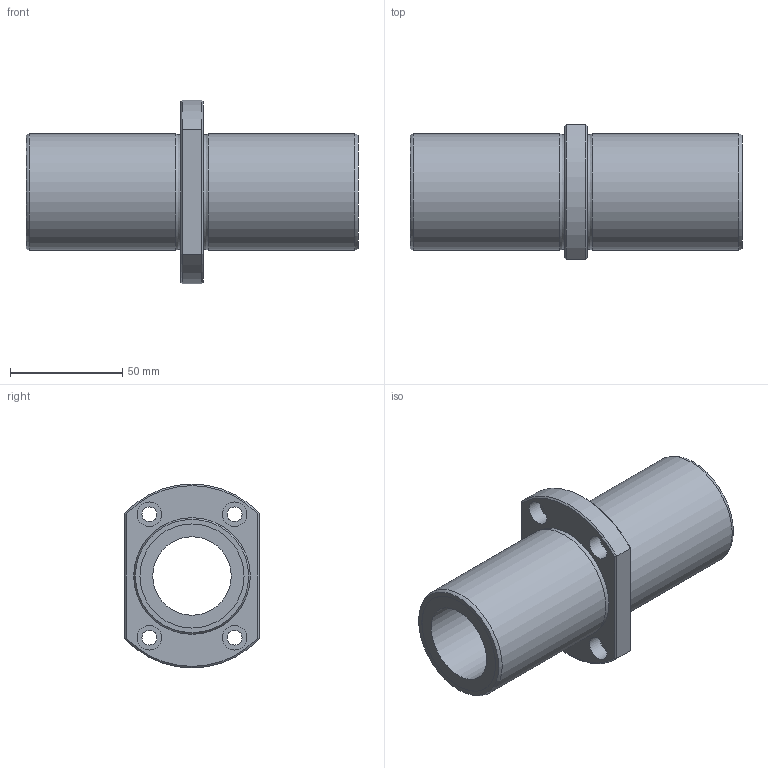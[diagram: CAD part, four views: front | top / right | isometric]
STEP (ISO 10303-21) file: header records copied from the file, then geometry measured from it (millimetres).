
FILE_DESCRIPTION((''),'2;1');
FILE_NAME('C:\Documents and Settings\土屋\My Documents\土屋移動用フォルダ\製品 (図面)\カタログ用3D\変換ファイル\OZAK_3D-CAD(STEP形式)\Part1.-Linear Bearings_ﾘﾆｱﾍﾞｱﾘﾝｸﾞ\09_Maintenance Free_ﾒｲﾝﾃﾅﾝｽﾌﾘｰ\L2017-09-21T15:11:27','2017-09-21T15:11:27',('y'),(''),'Autodesk Inventor 11','Autodesk Inventor 11','');
FILE_SCHEMA(('AUTOMOTIVE_DESIGN { 1 0 10303 214 1 1 1 1 }'));
Length unit declared in the file: millimetre
Products named in the file (1): LFDTC-MF
Bounding box: 148 x 60 x 82 mm (x, y, z)
Volume: 191402.6 mm3; surface area: 48895.1 mm2
Topology: 1 solids, 1 shells, 39 faces, 75 edges, 46 vertices
Faces by surface type: plane 16, cylinder 15, cone 4, torus 2, bspline 2
Full cylindrical faces by diameter (mm): 6.6 x4, 11 x4, 35 x1, 46.4 x2, 52 x2
Entity records: 1073 total; most frequent: CARTESIAN_POINT 292, DIRECTION 164, ORIENTED_EDGE 116, AXIS2_PLACEMENT_3D 76, EDGE_LOOP 74, EDGE_CURVE 58, VERTEX_POINT 46, FACE_OUTER_BOUND 39
